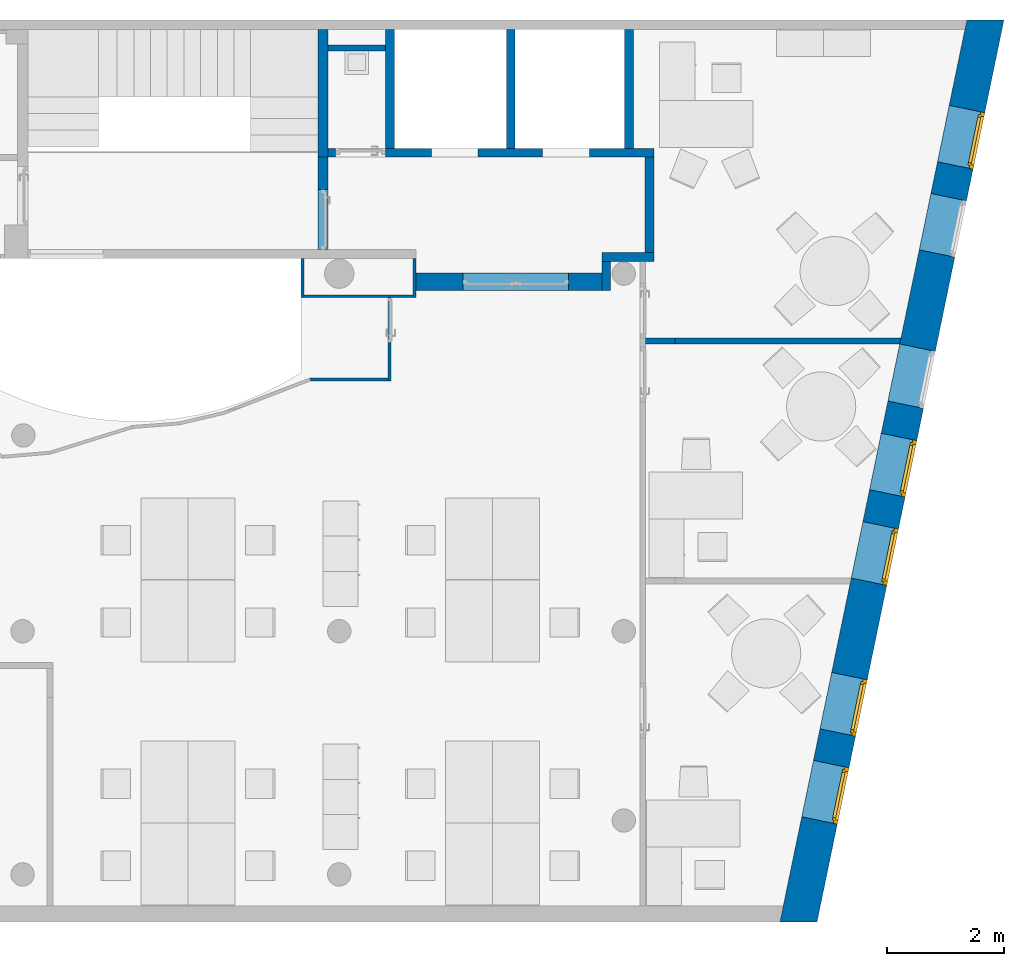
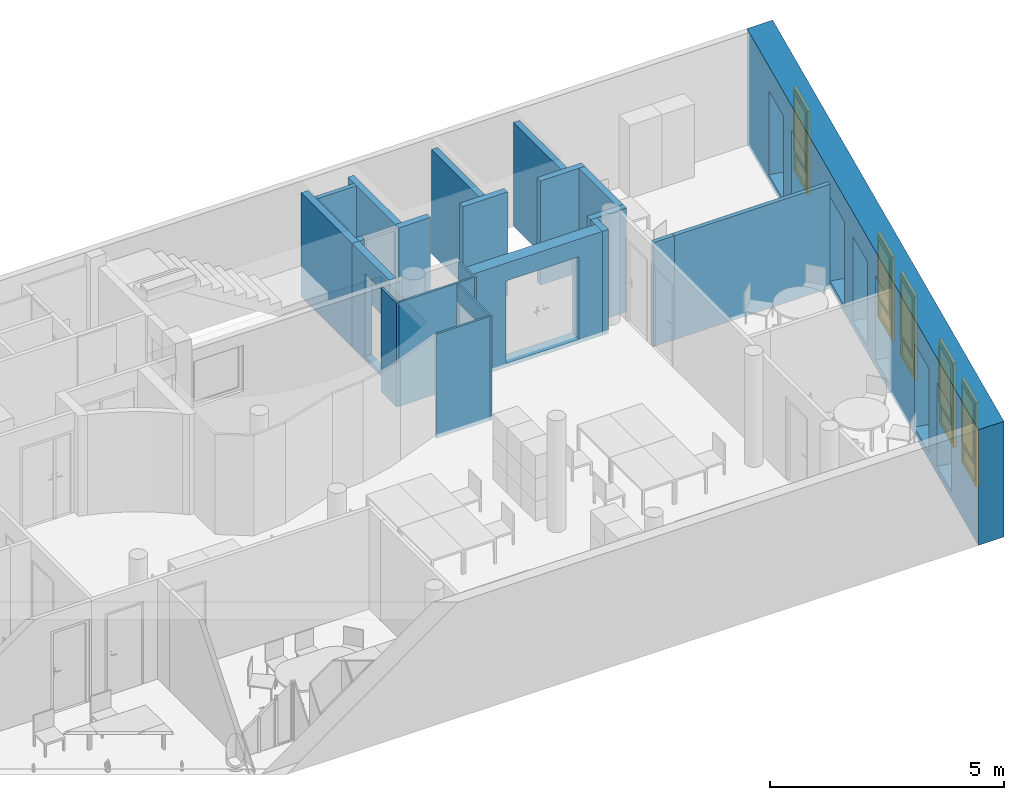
"""IFC4 building model written with IfcOpenShell, lengths in metres."""

from ifc_helpers import new_model, entity, si_unit, converted_unit, derived_unit, frame, frame_2d, origin, origin_with_axes, place, context, subcontext, project, spatial, polyline, rectangle, outline, extrude, closed_shell, open_shell, surface_model, source, transform, mapped, material, layer, layer_set, layer_usage, type_object, element, fill, save


model = new_model("IFC4")

# Units and contexts
model_context = context("Model", 3, precision=1e-05, world=origin())
body_context = subcontext(model_context, "Body", "Model", "MODEL_VIEW")
ifc_project = project(units=[si_unit("LENGTHUNIT", "METRE"), si_unit("AREAUNIT", "SQUARE_METRE"), si_unit("VOLUMEUNIT", "CUBIC_METRE"), si_unit("MASSUNIT", "GRAM", prefix="KILO"), converted_unit("PLANEANGLEUNIT", "DEGREE", entity("IfcPlaneAngleMeasure", 0.0174532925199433), si_unit("PLANEANGLEUNIT", "RADIAN"), dimensions=[0, 0, 0, 0, 0, 0, 0]), derived_unit("THERMALTRANSMITTANCEUNIT", [(si_unit("POWERUNIT", "WATT"), 1), (si_unit("THERMODYNAMICTEMPERATUREUNIT", "KELVIN"), -1), (si_unit("LENGTHUNIT", "METRE"), -2)]), derived_unit("VOLUMETRICFLOWRATEUNIT", [(si_unit("LENGTHUNIT", "METRE"), 3), (converted_unit("TIMEUNIT", "hour", entity("IfcTimeMeasure", 3600.0), si_unit("TIMEUNIT", "SECOND"), dimensions=[0, 0, 1, 0, 0, 0, 0]), -1), (si_unit("LENGTHUNIT", "METRE"), -1)])], contexts=[model_context])

# Building, storeys
building_placement = place(None, origin())
building = spatial("IfcBuilding", under=ifc_project, at=building_placement, Name="HABITATGE PLURIFAMILIAR", CompositionType="ELEMENT")
storey_1_placement = place(building_placement, frame((0.0, 0.0, 12.27)))
storey_1 = spatial("IfcBuildingStorey", under=building, at=storey_1_placement, Name="PLANTA TERCERA", CompositionType="ELEMENT", Elevation=12.27)
storey_2_placement = place(storey_1_placement, frame((0.0, 0.0, 9.26)))
storey_2 = spatial("IfcBuildingStorey", under=storey_1, at=storey_2_placement, Name="NOU", CompositionType="PARTIAL")

# Walls
ifc_material_1 = material()
ifc_layer_1 = layer(ifc_material_1, 0.15)
ifc_layer_set_1 = layer_set([ifc_layer_1])
ifc_layer_usage_1 = layer_usage(ifc_layer_set_1, "AXIS2", "POSITIVE", 0.0)
wall_1_placement = place(storey_2_placement, frame((420.768384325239, 23.6094598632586, -9.36), z_axis=(0.0, 0.0, 1.0), x_axis=(0.0, 1.0, 0.0)))
element("IfcWall", 1, at=wall_1_placement, inside=storey_2, material=ifc_layer_usage_1, Name="Evans P3", context=body_context, shape_type="SweptSolid", body=[
    extrude(rectangle(XDim=0.499999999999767, YDim=0.15, at=frame_2d((0.249999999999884, 0.075), x_axis=(1.0, 0.0))), origin_with_axes(), (0.0, 0.0, 1.0), 2.71),
])
ifc_material_2 = material()
ifc_layer_2 = layer(ifc_material_2, 0.15)
ifc_layer_set_2 = layer_set([ifc_layer_2])
ifc_layer_usage_2 = layer_usage(ifc_layer_set_2, "AXIS2", "POSITIVE", 0.0)
wall_2_placement = place(storey_2_placement, frame((421.156984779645, 26.0394598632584, -9.36), z_axis=(0.0, 0.0, 1.0), x_axis=(0.0, 1.0, 0.0)))
element("IfcWall", 2, at=wall_2_placement, inside=storey_2, material=ifc_layer_usage_2, Name="Evans P3", context=body_context, shape_type="SweptSolid", body=[
    extrude(rectangle(XDim=2.02878803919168, YDim=0.15, at=frame_2d((1.01439401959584, 0.075), x_axis=(1.0, 0.0))), origin_with_axes(), (0.0, 0.0, 1.0), 2.71),
])
ifc_material_3 = material()
ifc_layer_3 = layer(ifc_material_3, 0.15)
ifc_layer_set_3 = layer_set([ifc_layer_3])
ifc_layer_usage_3 = layer_usage(ifc_layer_set_3, "AXIS2", "POSITIVE", 0.0)
wall_3_placement = place(storey_2_placement, frame((419.136984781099, 26.0394598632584, -9.36), z_axis=(0.0, 0.0, 1.0), x_axis=(0.0, 1.0, 0.0)))
element("IfcWall", 3, at=wall_3_placement, inside=storey_2, material=ifc_layer_usage_3, Name="Evans P3", context=body_context, shape_type="SweptSolid", body=[
    extrude(rectangle(XDim=2.02878803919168, YDim=0.15, at=frame_2d((1.01439401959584, 0.075), x_axis=(1.0, 0.0))), origin_with_axes(), (0.0, 0.0, 1.0), 2.71),
])

# Wall, opening
ifc_material_4 = material()
ifc_layer_4 = layer(ifc_material_4, 0.3)
ifc_layer_set_4 = layer_set([ifc_layer_4])
ifc_layer_usage_4 = layer_usage(ifc_layer_set_4, "AXIS2", "POSITIVE", 0.0)
wall_4_placement = place(storey_2_placement, frame((420.618384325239, 23.9094598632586, -9.36), z_axis=(0.0, 0.0, 1.0), x_axis=(-1.0, 0.0, 0.0)))
wall_4 = element("IfcWall", 4, at=wall_4_placement, inside=storey_2, material=ifc_layer_usage_4, Name="Evans P3", context=body_context, shape_type="SweptSolid", body=[
    extrude(rectangle(XDim=3.17139954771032, YDim=0.3, at=frame_2d((1.58569977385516, 0.15), x_axis=(1.0, 0.0))), origin_with_axes(), (0.0, 0.0, 1.0), 2.71),
])
opening_1_placement = place(wall_4_placement, frame((2.37049657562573, 0.3, 0.1), z_axis=(0.0, -1.0, 0.0), x_axis=(0.0, 0.0, 1.0)))
element("IfcOpeningElement", 5, at=opening_1_placement, cuts=wall_4, Name="Vano porta P3", ObjectType="Opening", context=body_context, shape_type="SweptSolid", body=[
    extrude(outline(polyline([(2.15, 1.79909700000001), (2.15, 0.0), (0.0, 0.0), (0.0, 1.79909700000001), (2.15, 1.79909700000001)])), origin_with_axes(), (0.0, 0.0, 1.0), 0.3),
])

# Walls
ifc_material_5 = material()
ifc_layer_5 = layer(ifc_material_5, 0.15)
ifc_layer_set_5 = layer_set([ifc_layer_5])
ifc_layer_usage_5 = layer_usage(ifc_layer_set_5, "AXIS2", "POSITIVE", 0.0)
wall_5_placement = place(storey_2_placement, frame((421.506984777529, 24.2594598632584, -9.36), z_axis=(0.0, 0.0, 1.0), x_axis=(-1.0, 0.0, 0.0)))
element("IfcWall", 6, at=wall_5_placement, inside=storey_2, material=ifc_layer_usage_5, Name="Evans P3", context=body_context, shape_type="SweptSolid", body=[
    extrude(rectangle(XDim=0.888600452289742, YDim=0.15, at=frame_2d((0.444300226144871, 0.075), x_axis=(1.0, 0.0))), origin_with_axes(), (0.0, 0.0, 1.0), 2.71),
])
ifc_material_6 = material()
ifc_layer_6 = layer(ifc_material_6, 0.15)
ifc_layer_set_6 = layer_set([ifc_layer_6])
ifc_layer_usage_6 = layer_usage(ifc_layer_set_6, "AXIS2", "POSITIVE", 0.0)
wall_6_placement = place(storey_2_placement, frame((421.506984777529, 24.2594598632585, -9.36), z_axis=(0.0, 0.0, 1.0), x_axis=(0.0, 1.0, 0.0)))
element("IfcWall", 7, at=wall_6_placement, inside=storey_2, material=ifc_layer_usage_6, Name="Evans P3", context=body_context, shape_type="SweptSolid", body=[
    extrude(rectangle(XDim=1.62999999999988, YDim=0.15, at=frame_2d((0.814999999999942, 0.075), x_axis=(1.0, 0.0))), origin_with_axes(), (0.0, 0.0, 1.0), 2.71),
])

# Wall, openings
ifc_material_7 = material()
ifc_layer_7 = layer(ifc_material_7, 0.15)
ifc_layer_set_7 = layer_set([ifc_layer_7])
ifc_layer_usage_7 = layer_usage(ifc_layer_set_7, "AXIS2", "POSITIVE", 0.0)
wall_7_placement = place(storey_2_placement, frame((415.946984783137, 25.8894598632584, -9.36)))
wall_7 = element("IfcWall", 8, at=wall_7_placement, inside=storey_2, material=ifc_layer_usage_7, Name="Evans P3", context=body_context, shape_type="SweptSolid", body=[
    extrude(rectangle(XDim=5.55999999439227, YDim=0.15, at=frame_2d((2.77999999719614, 0.075), x_axis=(1.0, 0.0))), origin_with_axes(), (0.0, 0.0, 1.0), 2.71),
])
opening_2_placement = place(wall_7_placement, frame((3.65999999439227, 0.0, 0.0), z_axis=(0.0, 1.0, 0.0), x_axis=(0.0, 0.0, 1.0)))
element("IfcOpeningElement", 9, at=opening_2_placement, cuts=wall_7, Name="Vano porta P3", ObjectType="Opening", context=body_context, shape_type="SweptSolid", body=[
    extrude(outline(polyline([(2.71, 0.8), (2.71, 0.0), (0.0, 0.0), (0.0, 0.8), (2.71, 0.8)])), origin_with_axes(), (0.0, 0.0, 1.0), 0.15),
])
opening_3_placement = place(wall_7_placement, frame((1.75999999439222, 0.0, 0.0), z_axis=(0.0, 1.0, 0.0), x_axis=(0.0, 0.0, 1.0)))
element("IfcOpeningElement", 10, at=opening_3_placement, cuts=wall_7, Name="Vano porta P3", ObjectType="Opening", context=body_context, shape_type="SweptSolid", body=[
    extrude(outline(polyline([(2.71, 0.800000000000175), (2.71, 0.0), (0.0, 0.0), (0.0, 0.800000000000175), (2.71, 0.800000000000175)])), origin_with_axes(), (0.0, 0.0, 1.0), 0.15),
])
opening_4_placement = place(wall_7_placement, frame((0.129999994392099, 0.0, 0.0), z_axis=(0.0, 1.0, 0.0), x_axis=(0.0, 0.0, 1.0)))
element("IfcOpeningElement", 11, at=opening_4_placement, cuts=wall_7, Name="Vano porta P3", ObjectType="Opening", context=body_context, shape_type="SweptSolid", body=[
    extrude(outline(polyline([(2.71, 0.850000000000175), (2.71, 0.0), (0.0, 0.0), (0.0, 0.850000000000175), (2.71, 0.850000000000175)])), origin_with_axes(), (0.0, 0.0, 1.0), 0.15),
])

# Walls
ifc_material_8 = material()
ifc_layer_8 = layer(ifc_material_8, 0.15)
ifc_layer_set_8 = layer_set([ifc_layer_8])
ifc_layer_usage_8 = layer_usage(ifc_layer_set_8, "AXIS2", "POSITIVE", 0.0)
wall_8_placement = place(storey_2_placement, frame((417.076984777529, 26.0394598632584, -9.36), z_axis=(0.0, 0.0, 1.0), x_axis=(0.0, 1.0, 0.0)))
element("IfcWall", 12, at=wall_8_placement, inside=storey_2, material=ifc_layer_usage_8, Name="Evans P3", context=body_context, shape_type="SweptSolid", body=[
    extrude(rectangle(XDim=2.02878803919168, YDim=0.15, at=frame_2d((1.01439401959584, 0.075), x_axis=(1.0, 0.0))), origin_with_axes(), (0.0, 0.0, 1.0), 2.71),
])
ifc_material_9 = material()
ifc_layer_9 = layer(ifc_material_9, 0.1)
ifc_layer_set_9 = layer_set([ifc_layer_9])
ifc_layer_usage_9 = layer_usage(ifc_layer_set_9, "AXIS2", "POSITIVE", 0.0)
wall_9_placement = place(storey_2_placement, frame((415.946984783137, 27.6994598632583, -9.36)))
element("IfcWall", 13, at=wall_9_placement, inside=storey_2, material=ifc_layer_usage_9, Name="Evans P3", context=body_context, shape_type="SweptSolid", body=[
    extrude(rectangle(XDim=0.979999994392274, YDim=0.1, at=frame_2d((0.489999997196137, 0.05), x_axis=(1.0, 0.0))), origin_with_axes(), (0.0, 0.0, 1.0), 2.71),
])
ifc_material_10 = material()
ifc_layer_10 = layer(ifc_material_10, 0.05)
ifc_layer_set_10 = layer_set([ifc_layer_10])
ifc_layer_usage_10 = layer_usage(ifc_layer_set_10, "AXIS2", "POSITIVE", 0.0)
wall_10_placement = place(storey_2_placement, frame((417.446984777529, 23.4894598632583, -9.36), z_axis=(0.0, 0.0, 1.0), x_axis=(0.0, 1.0, 0.0)))
element("IfcWall", 14, at=wall_10_placement, inside=storey_2, material=ifc_layer_usage_10, Name="Evans P3", context=body_context, shape_type="SweptSolid", body=[
    extrude(rectangle(XDim=0.670000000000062, YDim=0.05, at=frame_2d((0.335000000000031, 0.025), x_axis=(1.0, 0.0))), origin_with_axes(), (0.0, 0.0, 1.0), 2.71),
])
ifc_material_11 = material()
ifc_layer_11 = layer(ifc_material_11, 0.05)
ifc_layer_set_11 = layer_set([ifc_layer_11])
ifc_layer_usage_11 = layer_usage(ifc_layer_set_11, "AXIS2", "POSITIVE", 0.0)
wall_11_placement = place(storey_2_placement, frame((415.536984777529, 23.4894598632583, -9.36)))
element("IfcWall", 15, at=wall_11_placement, inside=storey_2, material=ifc_layer_usage_11, Name="Evans P3", context=body_context, shape_type="SweptSolid", body=[
    extrude(rectangle(XDim=1.86000000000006, YDim=0.05, at=frame_2d((0.930000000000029, 0.025), x_axis=(1.0, 0.0))), origin_with_axes(), (0.0, 0.0, 1.0), 2.71),
])
ifc_material_12 = material()
ifc_layer_12 = layer(ifc_material_12, 0.05)
ifc_layer_set_12 = layer_set([ifc_layer_12])
ifc_layer_usage_12 = layer_usage(ifc_layer_set_12, "AXIS2", "POSITIVE", 0.0)
wall_12_placement = place(storey_2_placement, frame((415.486984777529, 24.1594598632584, -9.36), z_axis=(0.0, 0.0, 1.0), x_axis=(0.0, -1.0, 0.0)))
element("IfcWall", 16, at=wall_12_placement, inside=storey_2, material=ifc_layer_usage_12, Name="Evans P3", context=body_context, shape_type="SweptSolid", body=[
    extrude(rectangle(XDim=0.670000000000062, YDim=0.05, at=frame_2d((0.335000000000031, 0.025), x_axis=(1.0, 0.0))), origin_with_axes(), (0.0, 0.0, 1.0), 2.71),
])
ifc_material_13 = material()
ifc_layer_13 = layer(ifc_material_13, 0.05)
ifc_layer_set_13 = layer_set([ifc_layer_13])
ifc_layer_usage_13 = layer_usage(ifc_layer_set_13, "AXIS2", "POSITIVE", 0.0)
wall_13_placement = place(storey_2_placement, frame((415.646984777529, 22.0694598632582, -9.36)))
element("IfcWall", 17, at=wall_13_placement, inside=storey_2, material=ifc_layer_usage_13, Name="Mampara P3", context=body_context, shape_type="SweptSolid", body=[
    extrude(outline(polyline([(0.00933347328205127, 0.0), (1.32933347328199, 0.0), (1.32933347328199, 0.05), (0.0, 0.05), (0.00933347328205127, 0.0)])), frame((-0.00933347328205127, 0.0, 0.0), z_axis=(0.0, 0.0, 1.0), x_axis=(1.0, 0.0, 0.0)), (0.0, 0.0, 1.0), 2.71),
])

# Wall, opening
ifc_material_14 = material()
ifc_layer_14 = layer(ifc_material_14, 0.05)
ifc_layer_set_14 = layer_set([ifc_layer_14])
ifc_layer_usage_14 = layer_usage(ifc_layer_set_14, "AXIS2", "POSITIVE", 0.0)
wall_14_placement = place(storey_2_placement, frame((417.016984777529, 22.0694598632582, -9.36), z_axis=(0.0, 0.0, 1.0), x_axis=(0.0, 1.0, 0.0)))
wall_14 = element("IfcWall", 18, at=wall_14_placement, inside=storey_2, material=ifc_layer_usage_14, Name="Mampara P3", context=body_context, shape_type="SweptSolid", body=[
    extrude(rectangle(XDim=1.42000000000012, YDim=0.05, at=frame_2d((0.710000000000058, 0.025), x_axis=(1.0, 0.0))), origin_with_axes(), (0.0, 0.0, 1.0), 2.71),
])
opening_5_placement = place(wall_14_placement, frame((1.41815089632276, 0.05, 0.1), z_axis=(0.0, -1.0, 0.0), x_axis=(0.0, 0.0, 1.0)))
element("IfcOpeningElement", 19, at=opening_5_placement, cuts=wall_14, Name="Vano porta P3", ObjectType="Opening", context=body_context, shape_type="SweptSolid", body=[
    extrude(outline(polyline([(2.15, 0.76331705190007), (2.15, 0.0), (0.0, 0.0), (0.0, 0.76331705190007), (2.15, 0.76331705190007)])), origin_with_axes(), (0.0, 0.0, 1.0), 0.05),
])

# Wall
ifc_material_15 = material()
ifc_layer_15 = layer(ifc_material_15, 0.17)
ifc_layer_set_15 = layer_set([ifc_layer_15])
ifc_layer_usage_15 = layer_usage(ifc_layer_set_15, "AXIS2", "POSITIVE", 0.0)
wall_15_placement = place(storey_2_placement, frame((415.776984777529, 28.06824790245, -9.36), z_axis=(0.0, 0.0, 1.0), x_axis=(0.0, -1.0, 0.0)))
element("IfcWall", 20, at=wall_15_placement, inside=storey_2, material=ifc_layer_usage_15, Name="Evans P3", context=body_context, shape_type="SweptSolid", body=[
    extrude(rectangle(XDim=2.17878803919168, YDim=0.17, at=frame_2d((1.08939401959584, 0.085), x_axis=(1.0, 0.0))), origin_with_axes(), (0.0, 0.0, 1.0), 2.71),
])

# Wall, openings, doors
ifc_material_16 = material()
ifc_layer_16 = layer(ifc_material_16, 0.620000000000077)
ifc_layer_set_16 = layer_set([ifc_layer_16])
ifc_layer_usage_16 = layer_usage(ifc_layer_set_16, "AXIS2", "POSITIVE", 0.0)
wall_16_placement = place(storey_2_placement, frame((424.290656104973, 12.8406121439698, -9.36), z_axis=(0.0, 0.0, 1.0), x_axis=(0.202927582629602, 0.979193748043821, 0.0)))
wall_16 = element("IfcWall", 21, at=wall_16_placement, inside=storey_2, material=ifc_layer_usage_16, Name="Façana sur-est P3", context=body_context, shape_type="SweptSolid", body=[
    extrude(outline(polyline([(0.128488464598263, -0.620000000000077), (15.8430861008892, -0.620000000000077), (15.7145976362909, 0.0), (0.0, 0.0), (0.128488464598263, -0.620000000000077)])), frame((-0.128488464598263, 0.620000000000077, 0.0), z_axis=(0.0, 0.0, 1.0), x_axis=(1.0, 0.0, 0.0)), (0.0, 0.0, 1.0), 3.01),
])
opening_6_placement = place(wall_16_placement, frame((11.5811554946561, 0.0, 0.19), z_axis=(5.86770775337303e-15, 1.0, 0.0), x_axis=(0.0, 0.0, 1.0)))
element("IfcOpeningElement", 22, at=opening_6_placement, cuts=wall_16, Name="Vano finestra P3", ObjectType="Opening", context=body_context, shape_type="SweptSolid", body=[
    extrude(outline(polyline([(2.19, 0.982158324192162), (2.19, 0.0), (0.0, 0.0), (0.0, 0.982158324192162), (2.19, 0.982158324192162)])), origin_with_axes(), (0.0, 0.0, 1.0), 0.620000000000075),
])
opening_7_placement = place(wall_16_placement, frame((13.1155732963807, 0.0, 0.19), z_axis=(2.64046848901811e-14, 1.0, 0.0), x_axis=(0.0, 0.0, 1.0)))
opening_7 = element("IfcOpeningElement", 23, at=opening_7_placement, cuts=wall_16, Name="Vano finestra P3", ObjectType="Opening", context=body_context, shape_type="SweptSolid", body=[
    extrude(outline(polyline([(2.19, 0.983523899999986), (2.19, 0.0), (0.0, 0.0), (0.0, 0.983523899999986), (2.19, 0.983523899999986)])), origin_with_axes(), (0.0, 0.0, 1.0), 0.620000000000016),
])
opening_8_placement = place(wall_16_placement, frame((1.70166703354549, 0.0, 0.19), z_axis=(-3.08054657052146e-14, 1.0, 0.0), x_axis=(0.0, 0.0, 1.0)))
opening_8 = element("IfcOpeningElement", 24, at=opening_8_placement, cuts=wall_16, Name="Vano finestra P3", ObjectType="Opening", context=body_context, shape_type="SweptSolid", body=[
    extrude(outline(polyline([(2.19, 0.9835239), (2.19, 0.0), (0.0, 0.0), (0.0, 0.9835239), (2.19, 0.9835239)])), origin_with_axes(), (0.0, 0.0, 1.0), 0.619999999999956),
])
opening_9_placement = place(wall_16_placement, frame((5.8616613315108, 0.0, 0.19), z_axis=(2.49377579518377e-14, 1.0, 0.0), x_axis=(0.0, 0.0, 1.0)))
opening_9 = element("IfcOpeningElement", 25, at=opening_9_placement, cuts=wall_16, Name="Vano finestra P3", ObjectType="Opening", context=body_context, shape_type="SweptSolid", body=[
    extrude(outline(polyline([(2.19, 0.9835239), (2.19, 0.0), (0.0, 0.0), (0.0, 0.9835239), (2.19, 0.9835239)])), origin_with_axes(), (0.0, 0.0, 1.0), 0.620000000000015),
])
opening_10_placement = place(wall_16_placement, frame((3.2339604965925, 0.0, 0.19), z_axis=(2.27373675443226e-14, 1.0, 0.0), x_axis=(0.0, 0.0, 1.0)))
opening_10 = element("IfcOpeningElement", 26, at=opening_10_placement, cuts=wall_16, Name="Vano finestra P3", ObjectType="Opening", context=body_context, shape_type="SweptSolid", body=[
    extrude(outline(polyline([(2.19, 0.9835239), (2.19, 0.0), (0.0, 0.0), (0.0, 0.9835239), (2.19, 0.9835239)])), origin_with_axes(), (0.0, 0.0, 1.0), 0.620000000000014),
])
opening_11_placement = place(wall_16_placement, frame((7.40166059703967, 0.0, 0.19), z_axis=(-3.96070273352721e-14, 1.0, 0.0), x_axis=(0.0, 0.0, 1.0)))
opening_11 = element("IfcOpeningElement", 27, at=opening_11_placement, cuts=wall_16, Name="Vano finestra P3", ObjectType="Opening", context=body_context, shape_type="SweptSolid", body=[
    extrude(outline(polyline([(2.19, 0.9835239), (2.19, 0.0), (0.0, 0.0), (0.0, 0.9835239), (2.19, 0.9835239)])), origin_with_axes(), (0.0, 0.0, 1.0), 0.620000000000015),
])
opening_12_placement = place(wall_16_placement, frame((8.94601954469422, 0.0, 0.19), z_axis=(0.0, 1.0, 0.0), x_axis=(0.0, 0.0, 1.0)))
element("IfcOpeningElement", 28, at=opening_12_placement, cuts=wall_16, Name="Vano finestra P3", ObjectType="Opening", context=body_context, shape_type="SweptSolid", body=[
    extrude(outline(polyline([(2.19, 0.995133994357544), (2.19, 0.0), (0.0, 0.0), (0.0, 0.995133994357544), (2.19, 0.995133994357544)])), origin_with_axes(), (0.0, 0.0, 1.0), 0.620000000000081),
])
door_type_1 = type_object("IfcDoorType", Name="Finestra P3", OperationType="NOTDEFINED", ParameterTakesPrecedence=False, PredefinedType="DOOR")
shared_shape = source(origin_with_axes(), body_context, "Body", "SurfaceModel", [
    surface_model("IfcShellBasedSurfaceModel", [(0.0, 0.0700000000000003, 2.19), (0.0, 0.07, 0.0), (0.07, 0.07, 0.0), (0.07, 0.0700000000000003, 2.19), (0.0, 0.0, 0.0), (0.0, 0.0, 2.19), (0.07, 0.0, 2.19), (0.07, 0.0, 0.0)], [closed_shell([[[0, 1, 2, 3]], [[4, 5, 6, 7]], [[1, 0, 5, 4]], [[2, 1, 4, 7]], [[3, 2, 7, 6]], [[0, 3, 6, 5]]], orient=[[False], [False], [False], [False], [False], [False]])]),
    surface_model("IfcShellBasedSurfaceModel", [(0.913523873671, 0.0700000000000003, 2.19), (0.913523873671, 0.07, 0.0), (0.983523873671, 0.07, 0.0), (0.983523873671, 0.0700000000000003, 2.19), (0.913523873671, 0.0, 0.0), (0.913523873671, 0.0, 2.19), (0.983523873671, 0.0, 2.19), (0.983523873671, 0.0, 0.0)], [closed_shell([[[0, 1, 2, 3]], [[4, 5, 6, 7]], [[1, 0, 5, 4]], [[2, 1, 4, 7]], [[3, 2, 7, 6]], [[0, 3, 6, 5]]], orient=[[False], [False], [False], [False], [False], [False]])]),
    surface_model("IfcShellBasedSurfaceModel", [(0.07, 0.07, 0.07), (0.07, 0.07, 0.0), (0.913523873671, 0.07, 0.0), (0.913523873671, 0.07, 0.07), (0.07, 0.0, 0.0), (0.07, 0.0, 0.07), (0.913523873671, 0.0, 0.07), (0.913523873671, 0.0, 0.0)], [closed_shell([[[0, 1, 2, 3]], [[4, 5, 6, 7]], [[1, 0, 5, 4]], [[2, 1, 4, 7]], [[3, 2, 7, 6]], [[0, 3, 6, 5]]], orient=[[False], [False], [False], [False], [False], [False]])]),
    surface_model("IfcShellBasedSurfaceModel", [(0.07, 0.0700000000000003, 2.19), (0.07, 0.0700000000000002, 2.12), (0.913523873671, 0.0700000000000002, 2.12), (0.913523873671, 0.0700000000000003, 2.19), (0.07, 0.0, 2.12), (0.07, 0.0, 2.19), (0.913523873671, 0.0, 2.19), (0.913523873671, 0.0, 2.12)], [closed_shell([[[0, 1, 2, 3]], [[4, 5, 6, 7]], [[1, 0, 5, 4]], [[2, 1, 4, 7]], [[3, 2, 7, 6]], [[0, 3, 6, 5]]], orient=[[False], [False], [False], [False], [False], [False]])]),
    surface_model("IfcShellBasedSurfaceModel", [(0.07, 0.035, 0.07), (0.913523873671, 0.035, 0.07), (0.913523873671, 0.0350000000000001, 0.57), (0.07, 0.0350000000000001, 0.57)], [open_shell([[[0, 1, 2, 3]]], orient=[[False]])]),
    surface_model("IfcShellBasedSurfaceModel", [(0.05, 0.1, 2.14), (0.05, 0.1, 0.551), (0.1, 0.1, 0.551), (0.1, 0.1, 2.14), (0.05, 0.0500000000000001, 0.551), (0.05, 0.0500000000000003, 2.14), (0.1, 0.0500000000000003, 2.14), (0.1, 0.0500000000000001, 0.551)], [closed_shell([[[0, 1, 2, 3]], [[4, 5, 6, 7]], [[1, 0, 5, 4]], [[2, 1, 4, 7]], [[3, 2, 7, 6]], [[0, 3, 6, 5]]], orient=[[False], [False], [False], [False], [False], [False]])]),
    surface_model("IfcShellBasedSurfaceModel", [(0.883523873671, 0.1, 2.14), (0.883523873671, 0.1, 0.551), (0.933523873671, 0.1, 0.551), (0.933523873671, 0.1, 2.14), (0.883523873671, 0.0500000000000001, 0.551), (0.883523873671, 0.0500000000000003, 2.14), (0.933523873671, 0.0500000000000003, 2.14), (0.933523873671, 0.0500000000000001, 0.551)], [closed_shell([[[0, 1, 2, 3]], [[4, 5, 6, 7]], [[1, 0, 5, 4]], [[2, 1, 4, 7]], [[3, 2, 7, 6]], [[0, 3, 6, 5]]], orient=[[False], [False], [False], [False], [False], [False]])]),
    surface_model("IfcShellBasedSurfaceModel", [(0.1, 0.1, 0.601), (0.1, 0.1, 0.551), (0.883523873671, 0.1, 0.551), (0.883523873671, 0.1, 0.601), (0.1, 0.0500000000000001, 0.551), (0.1, 0.0500000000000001, 0.601), (0.883523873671, 0.0500000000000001, 0.601), (0.883523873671, 0.0500000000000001, 0.551)], [closed_shell([[[0, 1, 2, 3]], [[4, 5, 6, 7]], [[1, 0, 5, 4]], [[2, 1, 4, 7]], [[3, 2, 7, 6]], [[0, 3, 6, 5]]], orient=[[False], [False], [False], [False], [False], [False]])]),
    surface_model("IfcShellBasedSurfaceModel", [(0.1, 0.1, 2.14), (0.1, 0.1, 2.09), (0.883523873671, 0.1, 2.09), (0.883523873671, 0.1, 2.14), (0.1, 0.0500000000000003, 2.09), (0.1, 0.0500000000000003, 2.14), (0.883523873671, 0.0500000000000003, 2.14), (0.883523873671, 0.0500000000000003, 2.09)], [closed_shell([[[0, 1, 2, 3]], [[4, 5, 6, 7]], [[1, 0, 5, 4]], [[2, 1, 4, 7]], [[3, 2, 7, 6]], [[0, 3, 6, 5]]], orient=[[False], [False], [False], [False], [False], [False]])]),
    surface_model("IfcShellBasedSurfaceModel", [(0.1, 0.0750000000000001, 0.601), (0.883523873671, 0.0750000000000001, 0.601), (0.883523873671, 0.0750000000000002, 2.09), (0.1, 0.0750000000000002, 2.09)], [open_shell([[[0, 1, 2, 3]]], orient=[[False]])]),
])
door_1_placement = place(opening_7_placement, frame((0.0, 0.0, 0.0), z_axis=(1.0, 0.0, 0.0), x_axis=(0.0, 1.00000002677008, 2.96984659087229e-15)))
door_1 = element("IfcDoor", 29, at=door_1_placement, inside=storey_2, type_object=door_type_1, Name="Finestra P3", OverallHeight=2.19, OverallWidth=0.98352, context=body_context, shape_type="MappedRepresentation", body=[
    mapped(shared_shape, transform((0.0, 0.0, 0.0), x_axis=(1.0, 0.0, 0.0), y_axis=(0.0, 1.0, 0.0), z_axis=(0.0, 0.0, 1.0), scale=1.00000002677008)),
])
fill(opening_7, door_1)
door_type_2 = type_object("IfcDoorType", Name="Finestra P3", OperationType="NOTDEFINED", ParameterTakesPrecedence=False, PredefinedType="DOOR")
door_2_placement = place(opening_8_placement, frame((0.0, 0.0, 0.0), z_axis=(1.0, 0.0, 0.0), x_axis=(0.0, 1.00000002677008, 3.05311331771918e-15)))
door_2 = element("IfcDoor", 30, at=door_2_placement, inside=storey_2, type_object=door_type_2, Name="Finestra P3", OverallHeight=2.19, OverallWidth=0.98352, context=body_context, shape_type="MappedRepresentation", body=[
    mapped(shared_shape, transform((0.0, 0.0, 0.0), x_axis=(1.0, 0.0, 0.0), y_axis=(0.0, 1.0, 0.0), z_axis=(0.0, 0.0, 1.0), scale=1.00000002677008)),
])
fill(opening_8, door_2)
door_type_3 = type_object("IfcDoorType", Name="Finestra P3", OperationType="NOTDEFINED", ParameterTakesPrecedence=False, PredefinedType="DOOR")
door_3_placement = place(opening_9_placement, frame((0.0, 0.0, 0.0), z_axis=(1.0, 0.0, 0.0), x_axis=(0.0, 1.00000002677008, 5.83144643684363e-14)))
door_3 = element("IfcDoor", 31, at=door_3_placement, inside=storey_2, type_object=door_type_3, Name="Finestra P3", OverallHeight=2.19, OverallWidth=0.98352, context=body_context, shape_type="MappedRepresentation", body=[
    mapped(shared_shape, transform((0.0, 0.0, 0.0), x_axis=(1.0, 0.0, 0.0), y_axis=(0.0, 1.0, 0.0), z_axis=(0.0, 0.0, 1.0), scale=1.00000002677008)),
])
fill(opening_9, door_3)
door_type_4 = type_object("IfcDoorType", Name="Finestra P3", OperationType="NOTDEFINED", ParameterTakesPrecedence=False, PredefinedType="DOOR")
door_4_placement = place(opening_10_placement, frame((0.0, 0.0, 0.0), z_axis=(1.0, 0.0, 0.0), x_axis=(0.0, 1.00000002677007, 5.88418203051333e-14)))
door_4 = element("IfcDoor", 32, at=door_4_placement, inside=storey_2, type_object=door_type_4, Name="Finestra P3", OverallHeight=2.19, OverallWidth=0.98352, context=body_context, shape_type="MappedRepresentation", body=[
    mapped(shared_shape, transform((0.0, 0.0, 0.0), x_axis=(1.0, 0.0, 0.0), y_axis=(0.0, 1.0, 0.0), z_axis=(0.0, 0.0, 1.0), scale=1.00000002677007)),
])
fill(opening_10, door_4)
door_type_5 = type_object("IfcDoorType", Name="Finestra P3", OperationType="NOTDEFINED", ParameterTakesPrecedence=False, PredefinedType="DOOR")
door_5_placement = place(opening_11_placement, frame((0.0, 0.0, 0.0), z_axis=(1.0, 0.0, 0.0), x_axis=(0.0, 1.00000002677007, -2.63677968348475e-15)))
door_5 = element("IfcDoor", 33, at=door_5_placement, inside=storey_2, type_object=door_type_5, Name="Finestra P3", OverallHeight=2.19, OverallWidth=0.98352, context=body_context, shape_type="MappedRepresentation", body=[
    mapped(shared_shape, transform((0.0, 0.0, 0.0), x_axis=(1.0, 0.0, 0.0), y_axis=(0.0, 1.0, 0.0), z_axis=(0.0, 0.0, 1.0), scale=1.00000002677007)),
])
fill(opening_11, door_5)

# Walls
ifc_material_17 = material()
ifc_layer_17 = layer(ifc_material_17, 0.1)
ifc_layer_set_17 = layer_set([ifc_layer_17])
ifc_layer_usage_17 = layer_usage(ifc_layer_set_17, "AXIS2", "POSITIVE", 0.0)
wall_17_placement = place(storey_2_placement, frame((421.365852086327, 22.7007426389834, -9.36)))
element("IfcWall", 34, at=wall_17_placement, inside=storey_2, material=ifc_layer_usage_17, Name="Evans P3", context=body_context, shape_type="SweptSolid", body=[
    extrude(rectangle(XDim=0.5, YDim=0.1, at=frame_2d((0.25, 0.05), x_axis=(1.0, 0.0))), origin_with_axes(), (0.0, 0.0, 1.0), 2.71),
])
ifc_material_18 = material()
ifc_layer_18 = layer(ifc_material_18, 0.1)
ifc_layer_set_18 = layer_set([ifc_layer_18])
ifc_layer_usage_18 = layer_usage(ifc_layer_set_18, "AXIS2", "POSITIVE", 0.0)
wall_18_placement = place(storey_2_placement, frame((421.865852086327, 22.7007426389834, -9.36)))
element("IfcWall", 35, at=wall_18_placement, inside=storey_2, material=ifc_layer_usage_18, Name="Evans P3", context=body_context, shape_type="SweptSolid", body=[
    extrude(outline(polyline([(0.0, 0.0), (3.8350381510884, 0.0), (3.85576209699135, 0.1), (0.0, 0.1), (0.0, 0.0)])), origin_with_axes(), (0.0, 0.0, 1.0), 2.71),
])

# Wall, opening
ifc_material_19 = material()
ifc_layer_19 = layer(ifc_material_19, 0.17)
ifc_layer_set_19 = layer_set([ifc_layer_19])
ifc_layer_usage_19 = layer_usage(ifc_layer_set_19, "AXIS2", "POSITIVE", 0.0)
wall_19_placement = place(storey_2_placement, frame((415.776984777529, 25.8894598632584, -9.36), z_axis=(0.0, 0.0, 1.0), x_axis=(0.0, -1.0, 0.0)))
wall_19 = element("IfcWall", 36, at=wall_19_placement, inside=storey_2, material=ifc_layer_usage_19, Name="Evans P3", context=body_context, shape_type="SweptSolid", body=[
    extrude(rectangle(XDim=1.58, YDim=0.17, at=frame_2d((0.789999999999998, 0.085), x_axis=(1.0, 0.0))), origin_with_axes(), (0.0, 0.0, 1.0), 2.71),
])
opening_13_placement = place(wall_19_placement, frame((1.57643988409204, 0.17, 0.1), z_axis=(0.0, -1.0, 0.0), x_axis=(0.0, 0.0, 1.0)))
element("IfcOpeningElement", 37, at=opening_13_placement, cuts=wall_19, Name="Vano porta P3", ObjectType="Opening", context=body_context, shape_type="SweptSolid", body=[
    extrude(outline(polyline([(2.15, 1.02664424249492), (2.15, 0.0), (0.0, 0.0), (0.0, 1.02664424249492), (2.15, 1.02664424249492)])), origin_with_axes(), (0.0, 0.0, 1.0), 0.17),
])

save(model, "model.ifc")
